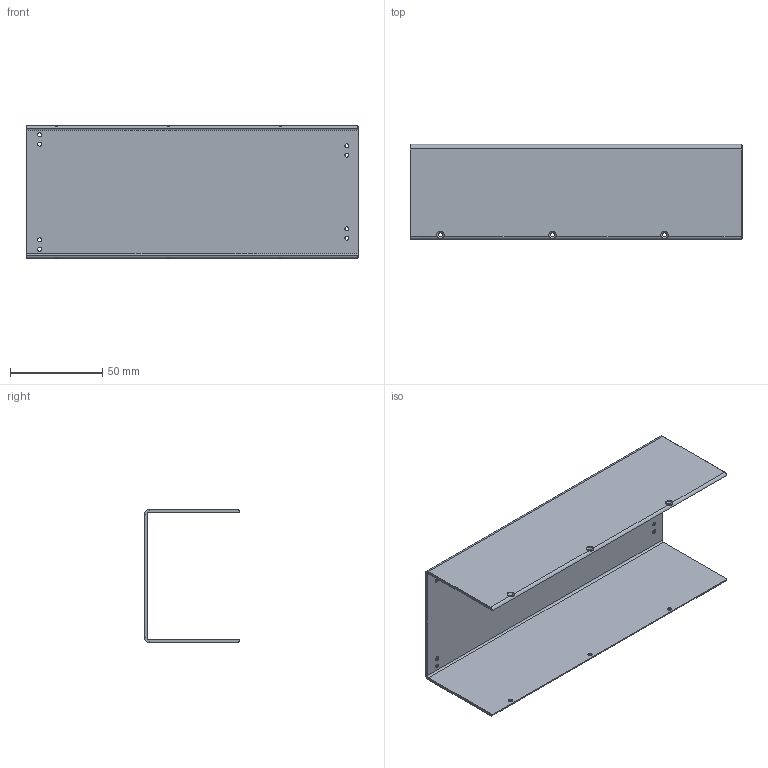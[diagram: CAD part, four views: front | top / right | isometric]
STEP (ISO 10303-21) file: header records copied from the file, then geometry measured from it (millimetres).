
FILE_DESCRIPTION (( 'STEP AP214' ), '1' );
FILE_NAME ('电池盒2-.STEP', '2026-09-29T00:52:07', ( '微软用户' ), ( '微软中国' ), 'SwSTEP 2.0', 'SolidWorks 2016', '' );
FILE_SCHEMA (( 'AUTOMOTIVE_DESIGN' ));
Length unit declared in the file: millimetre
Products named in the file (1): 萇喀碟2-
Bounding box: 180 x 51.5 x 72 mm (x, y, z)
Volume: 45669.2 mm3; surface area: 62168.6 mm2
Topology: 1 solids, 1 shells, 109 faces, 269 edges, 156 vertices
Faces by surface type: cylinder 62, cone 32, plane 15
Entity records: 3383 total; most frequent: CARTESIAN_POINT 652, DIRECTION 611, ORIENTED_EDGE 538, EDGE_CURVE 269, AXIS2_PLACEMENT_3D 241, VERTEX_POINT 156, EDGE_LOOP 131, CIRCLE 131
